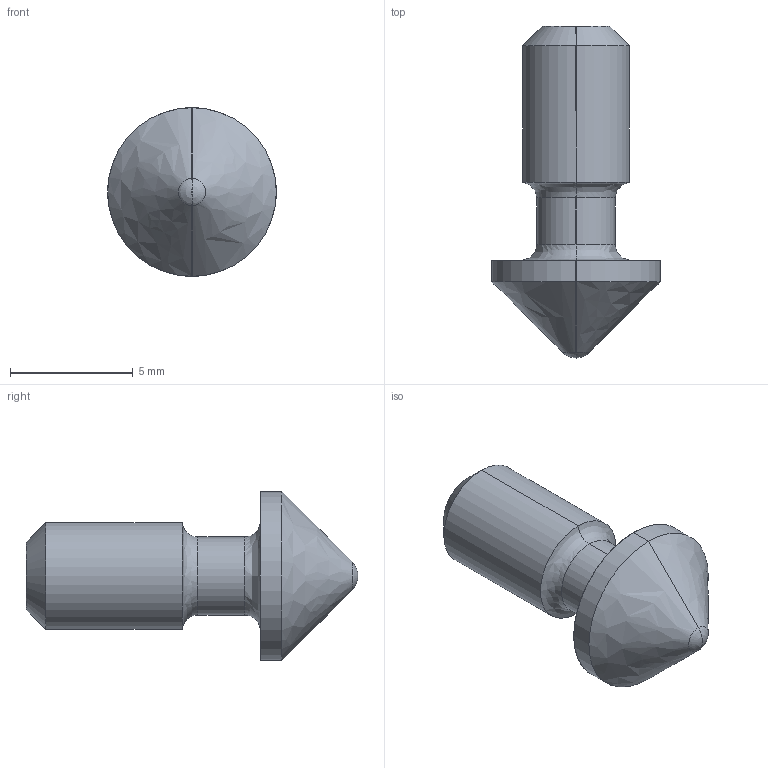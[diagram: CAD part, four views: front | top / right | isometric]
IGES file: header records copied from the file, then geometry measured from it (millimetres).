
Start section: SolidWorks IGES file using analytic representation for surfaces
Global section: file name: \\PSSILO\catalogs\CONTENTCENTRAL\Housing Pin Retainer\Cache\C54B6BA2-1A05-42FE-9326-BBE967C886D3.IGS; native system: SolidWorks 2009; preprocessor: SolidWorks 2009; author: partstream; date: 090718.234451; units: inch
Bounding box: 6.86 x 13.49 x 6.86 mm (x, y, z)
Surface area: 227.5 mm2 (no closed solid volume)
Topology: 0 solids, 0 shells, 21 faces, 176 edges, 176 vertices
Faces by surface type: revolution 14, bspline 7
